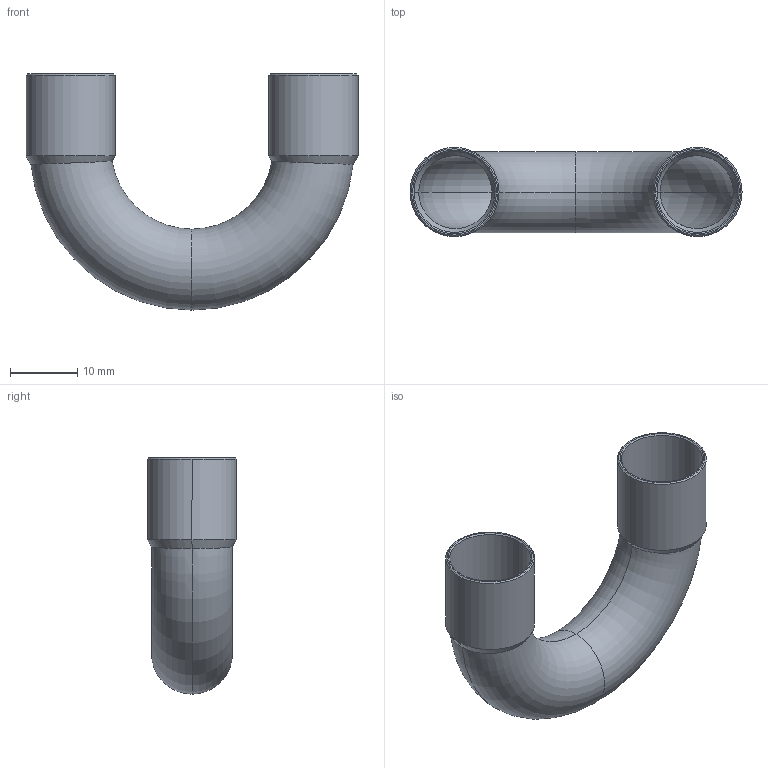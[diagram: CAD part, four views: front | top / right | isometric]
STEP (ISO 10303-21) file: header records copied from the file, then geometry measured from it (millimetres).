
FILE_DESCRIPTION((''),'2;1');
FILE_NAME('C:\sanha_work\5130\f\1506012.stp','2005-10-21T17:22:35',('Kris'),(''),'Autodesk Inventor 8','Autodesk Inventor 8','');
FILE_SCHEMA(('AUTOMOTIVE_DESIGN { 1 0 10303 214 1 1 1 1 }'));
Length unit declared in the file: millimetre
Products named in the file (1): 1506012
Bounding box: 49.2 x 13.2 x 35 mm (x, y, z)
Volume: 1748.7 mm3; surface area: 5868.5 mm2
Topology: 1 solids, 1 shells, 34 faces, 68 edges, 36 vertices
Faces by surface type: cone 12, bspline 9, torus 8, cylinder 4, plane 1
Entity records: 1131 total; most frequent: CARTESIAN_POINT 430, DIRECTION 148, ORIENTED_EDGE 136, EDGE_CURVE 68, AXIS2_PLACEMENT_3D 62, VERTEX_POINT 36, CIRCLE 36, EDGE_LOOP 36
